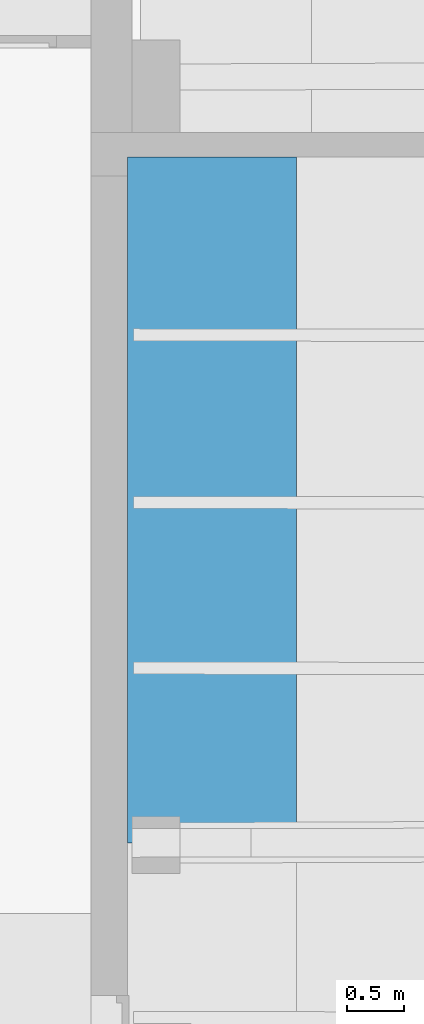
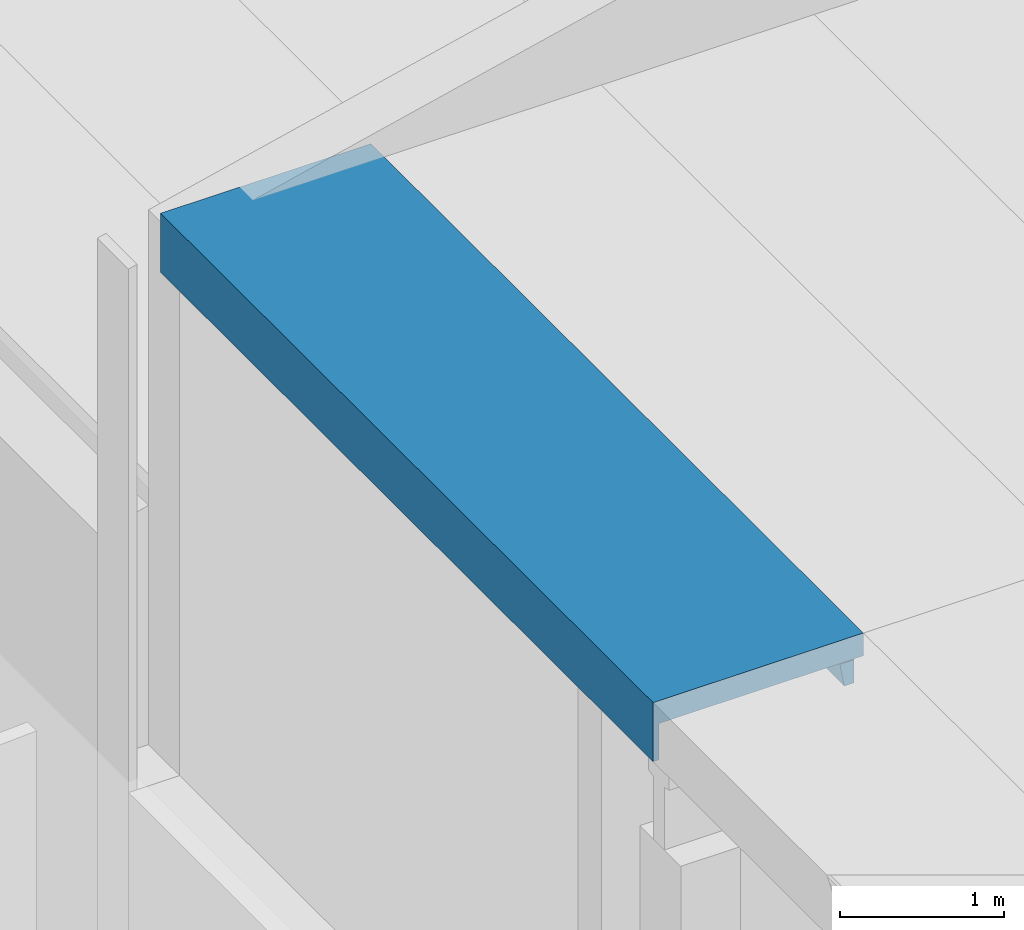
# One storey, part 52 of 301: 1 beam.
"""IFC2X3 building model written with IfcOpenShell, lengths in millimetres."""

from ifc_helpers import new_model, entity, si_unit, converted_unit, derived_unit, money_unit, direction, frame, origin_with_axes, place, context, subcontext, project, spatial, faceted_brep, material, type_object, element, save


model = new_model("IFC2X3")

# Units and contexts
model_context = context("Model", 3, precision=0.01, world=origin_with_axes(), true_north=direction((0.0, 1.0)))
body_context = subcontext(model_context, "Body", "Model", "MODEL_VIEW")
ifc_project = project(units=[si_unit("LENGTHUNIT", "METRE", prefix="MILLI"), si_unit("AREAUNIT", "SQUARE_METRE"), si_unit("VOLUMEUNIT", "CUBIC_METRE"), converted_unit("PLANEANGLEUNIT", "DEGREE", entity("IfcPlaneAngleMeasure", 0.0174532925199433), si_unit("PLANEANGLEUNIT", "RADIAN"), dimensions=[0, 0, 0, 0, 0, 0, 0]), money_unit("EUR"), converted_unit("TIMEUNIT", "Year", entity("IfcTimeMeasure", 31557600.0), si_unit("TIMEUNIT", "SECOND"), dimensions=[0, 0, 1, 0, 0, 0, 0]), si_unit("MASSUNIT", "GRAM", prefix="KILO"), si_unit("THERMODYNAMICTEMPERATUREUNIT", "DEGREE_CELSIUS"), si_unit("LUMINOUSINTENSITYUNIT", "LUMEN"), si_unit("ENERGYUNIT", "JOULE", prefix="MEGA"), derived_unit("THERMALCONDUCTANCEUNIT", [(si_unit("POWERUNIT", "WATT"), 1), (si_unit("LENGTHUNIT", "METRE"), -1), (si_unit("THERMODYNAMICTEMPERATUREUNIT", "KELVIN"), -1)]), derived_unit("SPECIFICHEATCAPACITYUNIT", [(si_unit("ENERGYUNIT", "JOULE"), 1), (si_unit("MASSUNIT", "GRAM", prefix="KILO"), -1), (si_unit("THERMODYNAMICTEMPERATUREUNIT", "KELVIN"), -1)]), derived_unit("MASSDENSITYUNIT", [(si_unit("MASSUNIT", "GRAM", prefix="KILO"), 1), (si_unit("VOLUMEUNIT", "CUBIC_METRE"), -1)])], contexts=[model_context])

# Site, building, storey
site_placement = place(None, frame((0.0, 0.0, 8650.0), z_axis=(0.0, 0.0, 1.0), x_axis=(1.0, 0.0, 0.0)))
site = spatial("IfcSite", under=ifc_project, at=site_placement, Name="43301:001:0844", CompositionType="ELEMENT")
building_placement = place(site_placement, origin_with_axes())
building = spatial("IfcBuilding", under=site, at=building_placement, Name="Kuressaare Ametikooli tuulikute mehaanikute õppekorpus", CompositionType="ELEMENT")
storey_placement = place(building_placement, origin_with_axes())
storey = spatial("IfcBuildingStorey", under=building, at=storey_placement, Name="1.korrus", CompositionType="ELEMENT", Elevation=0.0)

# Beam
ifc_material = material(Name="GENEERILINE - KONSTRUKTRIOON")
beam_type = type_object("IfcBeamType", Name="Precast Double Tee 2 1480 x 440", PredefinedType="NOTDEFINED")
beam_placement = place(storey_placement, frame((88958.75644683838, 62101.7340968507, 7100.0), z_axis=(0.0, 0.0, 1.0), x_axis=(-1.0, 0.0, 0.0)))
element("IfcBeam", 1, at=beam_placement, inside=storey, type_object=beam_type, material=ifc_material, context=body_context, shape_type="Brep", body=[
    faceted_brep([(576.463102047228, 5829.030562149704, -169.8235046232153), (576.463102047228, 4528.452027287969, -169.8234995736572), (576.4631020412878, 4421.424132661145, -169.8234995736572), (576.463102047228, 3077.661677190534, -169.8234995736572), (576.4631020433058, 2970.633782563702, -169.8234995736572), (576.463102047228, 1610.211503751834, -169.8234995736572), (576.4631020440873, 1503.183609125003, -169.8234995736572), (576.463102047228, 0.0, -169.8234995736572), (-579.2780844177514, 0.0, -169.8234995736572), (-579.2780844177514, 6006.106164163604, -169.8234995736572), (576.463102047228, 6006.106164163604, -169.8235046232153), (596.5276855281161, 5832.768693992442, -173.6800815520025), (596.5276855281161, 4522.746800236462, -173.6800815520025), (686.6949363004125, 4421.243500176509, -169.8234995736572), (686.8703181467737, 4528.271107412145, -169.8234995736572), (596.5276855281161, 4427.063631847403, -173.6800815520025), (596.5276855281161, 3071.956450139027, -173.6800815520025), (686.8703181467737, 3077.48075731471, -169.8234995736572), (686.6949363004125, 2970.453150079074, -169.8234995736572), (596.5276855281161, 1604.506276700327, -173.6800815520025), (596.5276855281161, 2976.273281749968, -173.6800815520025), (686.8703181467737, 1610.030583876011, -169.8234995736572), (686.6949363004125, 1503.002976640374, -169.8234995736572), (596.5276855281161, 1508.823108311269, -173.6800815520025), (596.5276855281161, 0.0, -173.6800815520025), (613.8801744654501, 0.0, -184.4667336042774), (626.2185466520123, 0.0, -200.7524729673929), (631.9059644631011, 0.0, -220.376794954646), (665.9999970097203, 0.0, -440.0001340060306), (739.9999999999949, 0.0, -440.0001340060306), (739.9999999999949, 0.0, 0.0), (-739.9999999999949, 0.0, 0.0), (-739.9999999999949, 0.0, -440.0001340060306), (-670.9333333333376, 0.0, -440.0001340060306), (-630.0119299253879, 0.0, -212.014908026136), (-624.6465213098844, 0.0, -195.4985300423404), (-613.8457985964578, 0.0, -181.8998999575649), (-598.9726949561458, 0.0, -172.9350162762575), (-581.9040335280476, 0.0, -169.7351493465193), (-581.9040335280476, 6006.106164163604, -169.7351493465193), (700.0042383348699, 6006.106164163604, -169.8235046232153), (-582.3753363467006, 6006.106164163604, -169.8235046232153), (-739.9999999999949, 6006.106164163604, -169.8235046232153), (-739.9999999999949, 6006.106164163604, 0.0), (739.9999999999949, 6006.106164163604, 0.0), (739.9999999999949, 6006.106164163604, -440.0001340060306), (700.0042383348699, 6006.106164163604, -440.0001340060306), (700.6401873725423, 5829.477660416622, -169.8235046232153), (613.4409409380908, 4515.617956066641, -184.1936973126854), (599.2910346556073, 4520.215762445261, -175.3978342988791), (608.8765200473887, 5840.109885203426, -181.3563625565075), (613.8801744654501, 5842.529771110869, -184.4667336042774), (613.8801744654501, 4515.552576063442, -184.4667336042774), (686.8568830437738, 4520.072271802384, -175.3978342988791), (700.6007170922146, 5840.440137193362, -181.3563625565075), (599.2909140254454, 4429.585516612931, -175.3977593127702), (686.7083712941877, 4429.442269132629, -175.3977593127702), (686.8493868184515, 4515.497664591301, -184.1936973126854), (686.8154011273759, 4494.757734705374, -271.7709778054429), (686.7498548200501, 4454.757788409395, -271.7709778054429), (686.7158675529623, 4434.016896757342, -184.1935020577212), (613.440626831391, 4434.136969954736, -184.1935020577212), (613.8801744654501, 4434.200959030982, -184.4667336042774), (613.8801744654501, 3064.762225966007, -184.4667336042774), (613.4409409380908, 3064.827605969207, -184.1936973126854), (599.2910346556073, 3069.425412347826, -175.3978342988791), (686.8568830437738, 3069.281921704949, -175.3978342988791), (686.8493868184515, 3064.707314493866, -184.1936973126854), (686.8154011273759, 3043.967384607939, -271.7709778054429), (686.7498548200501, 3003.96743831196, -271.7709778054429), (686.7158675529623, 2983.226546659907, -184.1935020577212), (686.7083712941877, 2978.651919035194, -175.3977593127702), (599.2909140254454, 2978.795166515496, -175.3977593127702), (599.2910346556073, 1601.975238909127, -175.3978342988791), (686.8568830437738, 1601.83174826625, -175.3978342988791), (613.440626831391, 2983.346619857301, -184.1935020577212), (613.8801744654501, 2983.410608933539, -184.4667336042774), (613.8801744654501, 1597.312052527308, -184.4667336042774), (613.4409409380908, 1597.377432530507, -184.1936973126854), (686.7083712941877, 1511.201745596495, -175.3977593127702), (686.8493868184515, 1597.257141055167, -184.1936973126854), (686.8154011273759, 1576.517211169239, -271.7709778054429), (686.7498548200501, 1536.517264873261, -271.7709778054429), (686.7158675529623, 1515.776373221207, -184.1935020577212), (599.2909140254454, 1511.344993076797, -175.3977593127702), (613.440626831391, 1515.896446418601, -184.1935020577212), (613.8801744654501, 1515.96043549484, -184.4667336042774), (626.2185466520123, 1519.797163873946, -200.7524729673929), (631.9059644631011, 1524.435466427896, -220.376794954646), (639.8843284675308, 4454.834585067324, -271.7709778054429), (639.8843284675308, 4494.834638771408, -271.7709778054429), (631.9059644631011, 4507.018844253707, -220.376794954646), (631.9059644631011, 5870.324904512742, -220.376794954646), (632.2156684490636, 5871.866599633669, -222.3718133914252), (639.2108248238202, 5897.483941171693, -267.4324731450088), (665.9999970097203, 5897.580917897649, -440.0001340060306), (639.8843284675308, 1536.59406153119, -271.7709778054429), (639.8843284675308, 1576.594115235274, -271.7709778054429), (631.9059644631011, 1588.778320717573, -220.376794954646), (631.9059644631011, 2991.885639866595, -220.376794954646), (639.8843284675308, 3004.044234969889, -271.7709778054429), (639.8843284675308, 3044.044288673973, -271.7709778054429), (631.9059644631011, 3056.228494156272, -220.376794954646), (631.9059644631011, 4442.67598996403, -220.376794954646), (700.3945364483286, 5897.704755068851, -440.0001340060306), (-739.9999999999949, 5824.290650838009, -169.8235046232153), (-739.9999999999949, 5835.253269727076, -181.3563625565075), (-739.9999999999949, 5866.92595180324, -222.3718133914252), (-739.9999999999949, 5892.518107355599, -267.4324731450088), (-739.9999999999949, 5892.518629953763, -440.0001340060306), (-739.9999999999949, 1538.855222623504, -271.7709778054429), (-739.9999999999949, 1578.85527632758, -271.7709778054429), (-739.9999999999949, 1599.595261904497, -184.1936973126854), (-739.9999999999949, 1604.169881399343, -175.3978342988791), (-739.9999999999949, 1612.368739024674, -169.8234995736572), (-739.9999999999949, 1505.340844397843, -169.8234995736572), (-739.9999999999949, 1513.539635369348, -175.3977593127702), (-739.9999999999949, 1518.114275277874, -184.1935020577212), (-739.9999999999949, 3046.30544976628, -271.7709778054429), (-739.9999999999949, 3067.045435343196, -184.1936973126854), (-739.9999999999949, 3071.620054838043, -175.3978342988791), (-739.9999999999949, 3079.818912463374, -169.8234995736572), (-739.9999999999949, 2972.791017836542, -169.8234995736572), (-739.9999999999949, 2980.989808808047, -175.3977593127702), (-739.9999999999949, 2985.564448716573, -184.1935020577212), (-739.9999999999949, 3006.305396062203, -271.7709778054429), (-739.9999999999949, 4517.835785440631, -184.1936973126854), (-739.9999999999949, 4522.410404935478, -175.3978342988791), (-739.9999999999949, 4530.609262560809, -169.8234995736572), (-739.9999999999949, 4423.581367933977, -169.8234995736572), (-739.9999999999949, 4431.780158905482, -175.3977593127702), (-739.9999999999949, 4436.354798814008, -184.1935020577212), (-739.9999999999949, 4457.095746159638, -271.7709778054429), (-739.9999999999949, 4497.095799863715, -271.7709778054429), (-670.9333333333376, 5892.767303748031, -440.0001340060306), (-630.0119299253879, 5859.324221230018, -212.014908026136), (-630.0119299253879, 4511.066954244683, -212.014908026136), (-640.7376347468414, 4496.93314260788, -271.7709778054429), (-640.7376347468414, 4456.933088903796, -271.7709778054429), (-630.0119299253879, 4442.76350101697, -212.014908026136), (-630.0119299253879, 3060.276604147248, -212.014908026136), (-640.7376347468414, 3046.142792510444, -271.7709778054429), (-640.7376347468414, 3006.142738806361, -271.7709778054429), (-630.0119299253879, 2991.973150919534, -212.014908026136), (-630.0119299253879, 1592.826430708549, -212.014908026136), (-640.7376347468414, 1578.692619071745, -271.7709778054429), (-640.7376347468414, 1538.692565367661, -271.7709778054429), (-630.0119299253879, 1524.522977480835, -212.014908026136), (-639.9589101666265, 5892.878304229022, -267.4324731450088), (-631.8709060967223, 5867.315269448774, -222.3718133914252), (-624.6465213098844, 1520.60261655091, -195.4985300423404), (-615.6674938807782, 1517.910536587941, -184.1935020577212), (-613.8457985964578, 1516.714655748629, -181.8998999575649), (-603.058484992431, 1513.315234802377, -175.3977593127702), (-598.9726949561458, 1509.68626212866, -172.9350162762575), (-582.375309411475, 4423.32307467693, -169.8234995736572), (-582.375309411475, 4530.350969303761, -169.8234995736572), (-598.9726949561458, 4525.801677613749, -172.9350162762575), (-598.9726949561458, 5827.756081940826, -172.9350162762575), (-582.3753363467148, 5824.858176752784, -169.8235046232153), (-582.375309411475, 1505.082551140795, -169.8234995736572), (-582.375309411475, 1612.110445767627, -169.8234995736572), (-598.9726949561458, 1607.561154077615, -172.9350162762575), (-598.9726949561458, 2977.136435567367, -172.9350162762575), (-582.375309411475, 2972.532724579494, -169.8234995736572), (-582.375309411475, 3079.560619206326, -169.8234995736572), (-598.9726949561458, 3075.011327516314, -172.9350162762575), (-598.9726949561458, 4427.926785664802, -172.9350162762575), (700.3945383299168, 5897.704232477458, -267.4324731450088), (700.4866814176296, 5872.112408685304, -222.3718133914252), (626.2185466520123, 5855.150261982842, -200.7524729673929), (626.2185466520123, 4511.675581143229, -200.7524729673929), (626.2185466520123, 4438.03768741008, -200.7524729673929), (626.2185466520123, 3060.885231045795, -200.7524729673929), (626.2185466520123, 2987.247337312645, -200.7524729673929), (626.2185466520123, 1593.435057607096, -200.7524729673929), (-612.9440481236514, 5835.710733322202, -181.3563625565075), (-613.8457985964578, 5836.127213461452, -181.8998999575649), (-624.6465213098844, 5846.589370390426, -195.4985300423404), (-624.6465213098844, 1596.729034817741, -195.4985300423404), (-615.6676489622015, 1599.391523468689, -184.1936973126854), (-613.8457985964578, 1600.581513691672, -181.8998999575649), (-603.058609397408, 1603.945481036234, -175.3978342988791), (-624.6465213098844, 3064.179208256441, -195.4985300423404), (-615.6676489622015, 3066.841696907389, -184.1936973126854), (-613.8457985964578, 3068.031687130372, -181.8998999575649), (-603.058609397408, 3071.395654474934, -175.3978342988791), (-603.058484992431, 2980.765408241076, -175.3977593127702), (-613.8457985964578, 2984.164829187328, -181.8998999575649), (-615.6674938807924, 2985.36071002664, -184.1935020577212), (-624.6465213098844, 2988.05278998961, -195.4985300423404), (-603.058609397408, 4522.186004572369, -175.3978342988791), (-615.6676489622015, 4517.632047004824, -184.1936973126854), (-613.8457985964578, 4518.822037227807, -181.8998999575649), (-603.058484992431, 4431.555758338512, -175.3977593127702), (-615.6674938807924, 4436.151060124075, -184.1935020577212), (-613.8457985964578, 4434.955179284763, -181.8998999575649), (-624.6465213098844, 4438.843140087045, -195.4985300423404), (-624.6465213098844, 4514.969558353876, -195.4985300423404)], [[[0, 1, 2, 3, 4, 5, 6, 7, 8, 9, 10]], [[11, 12, 1, 0]], [[13, 2, 1, 14]], [[3, 2, 15, 16]], [[17, 18, 4, 3]], [[19, 5, 4, 20]], [[5, 21, 22, 6]], [[23, 24, 7, 6]], [[25, 26, 27, 28, 29, 30, 31, 32, 33, 34, 35, 36, 37, 38, 8, 7, 24]], [[38, 39, 9, 8]], [[40, 10, 9, 39, 41, 42, 43, 44, 45, 46]], [[0, 10, 40, 47]], [[48, 49, 12, 11, 50, 51, 52]], [[14, 1, 12, 49, 53]], [[0, 47, 54, 50, 11]], [[55, 15, 2, 13, 56]], [[14, 53, 57, 58, 59, 60, 56, 13]], [[55, 61, 62, 63, 64, 65, 16, 15]], [[66, 17, 3, 16, 65]], [[18, 17, 66, 67, 68, 69, 70, 71]], [[71, 72, 20, 4, 18]], [[73, 74, 21, 5, 19]], [[20, 72, 75, 76, 77, 78, 73, 19]], [[79, 22, 21, 74, 80, 81, 82, 83]], [[22, 79, 84, 23, 6]], [[24, 23, 84, 85, 86, 25]], [[87, 26, 25, 86]], [[88, 27, 26, 87]], [[89, 90, 91, 92, 93, 94, 95, 28, 27, 88, 96, 97, 98, 99, 100, 101, 102, 103]], [[45, 29, 28, 95, 104, 46]], [[29, 45, 44, 30]], [[30, 44, 43, 31]], [[42, 105, 106, 107, 108, 109, 32, 31, 43], [110, 111, 112, 113, 114, 115, 116, 117], [118, 119, 120, 121, 122, 123, 124, 125], [126, 127, 128, 129, 130, 131, 132, 133]], [[109, 134, 33, 32]], [[135, 136, 137, 138, 139, 140, 141, 142, 143, 144, 145, 146, 147, 34, 33, 134, 148, 149]], [[150, 35, 34, 147]], [[36, 35, 150, 151, 152]], [[37, 36, 152, 153, 154]], [[155, 156, 157, 158, 159, 41, 39, 38, 37, 154, 160, 161, 162, 163, 164, 165, 166, 167]], [[105, 42, 41, 159]], [[168, 169, 54, 47, 40, 46, 104]], [[53, 49, 48, 57]], [[169, 93, 92, 170, 51, 50, 54]], [[170, 171, 52, 51]], [[57, 48, 52, 171, 91, 90, 58]], [[60, 61, 55, 56]], [[58, 90, 89, 59]], [[172, 62, 61, 60, 59, 89, 103]], [[63, 62, 172, 173]], [[68, 67, 64, 63, 173, 102, 101]], [[67, 66, 65, 64]], [[69, 68, 101, 100]], [[99, 174, 76, 75, 70, 69, 100]], [[71, 70, 75, 72]], [[78, 80, 74, 73]], [[175, 77, 76, 174]], [[97, 81, 80, 78, 77, 175, 98]], [[96, 82, 81, 97]], [[96, 88, 87, 86, 85, 83, 82]], [[84, 79, 83, 85]], [[92, 91, 171, 170]], [[94, 93, 169, 168]], [[95, 94, 168, 104]], [[98, 175, 174, 99]], [[173, 172, 103, 102]], [[105, 159, 158, 176, 106]], [[177, 178, 135, 149, 107, 106, 176]], [[108, 107, 149, 148]], [[109, 108, 148, 134]], [[110, 146, 145, 111]], [[144, 179, 180, 112, 111, 145]], [[180, 181, 182, 113, 112]], [[182, 162, 161, 114, 113]], [[114, 161, 160, 115]], [[160, 154, 153, 116, 115]], [[153, 152, 151, 117, 116]], [[150, 147, 146, 110, 117, 151]], [[183, 184, 119, 118, 141, 140]], [[185, 186, 120, 119, 184]], [[166, 165, 121, 120, 186]], [[165, 164, 122, 121]], [[163, 187, 123, 122, 164]], [[188, 189, 124, 123, 187]], [[143, 142, 125, 124, 189, 190]], [[142, 141, 118, 125]], [[191, 127, 126, 192, 193]], [[156, 128, 127, 191, 157]], [[155, 129, 128, 156]], [[194, 130, 129, 155, 167]], [[195, 131, 130, 194, 196]], [[138, 132, 131, 195, 197, 139]], [[137, 133, 132, 138]], [[192, 126, 133, 137, 136, 198]], [[178, 198, 136, 135]], [[140, 139, 197, 183]], [[179, 144, 143, 190]], [[157, 191, 193, 177, 176, 158]], [[181, 188, 187, 163, 162, 182]], [[196, 194, 167, 166, 186, 185]], [[193, 192, 198, 178, 177]], [[179, 190, 189, 188, 181, 180]], [[197, 195, 196, 185, 184, 183]]]),
])

save(model, "model.ifc")
